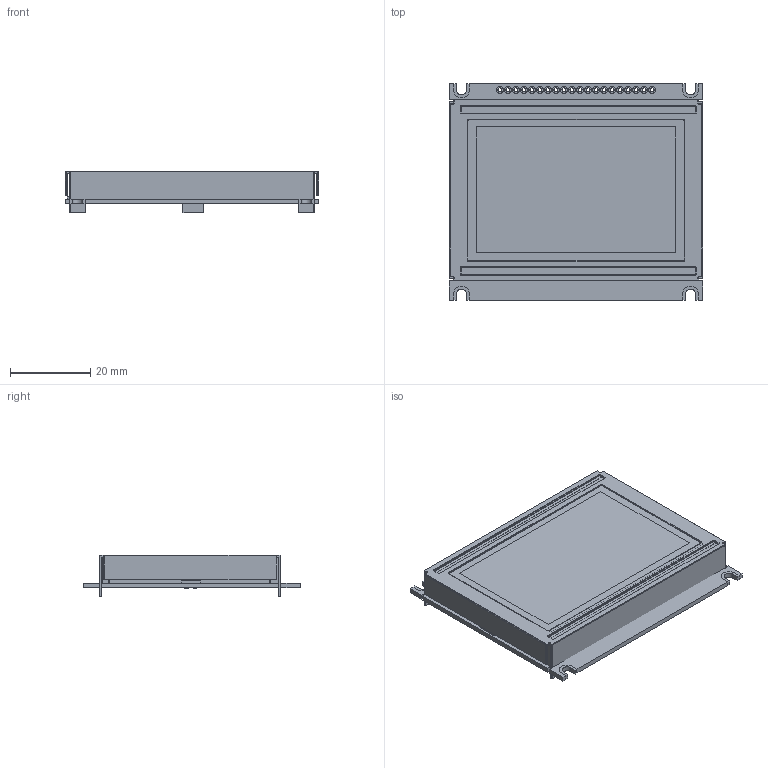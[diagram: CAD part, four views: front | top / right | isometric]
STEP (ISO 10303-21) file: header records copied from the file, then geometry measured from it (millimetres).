
FILE_DESCRIPTION(('STEP AP214'),'1');
FILE_NAME('tmp0.STEP','2018-12-10T15:23:22',(' '),(' '),'Spatial InterOp 3D',' ',' ');
FILE_SCHEMA(('automotive_design'));
Length unit declared in the file: millimetre
Products named in the file (34): 1; 2; 3; 4; 5; 6; 7; 8; 9; 10; 11; 12; 13; 14; 15; 16; 17; 18; 19; 20; 21; 22; 23; 24; 25; 26; 27; 28; 29; 30; 31; 32; 33; 34
Bounding box: 63.2 x 54 x 10.47 mm (x, y, z)
Volume: 26903.3 mm3; surface area: 32079 mm2
Topology: 34 solids, 34 shells, 460 faces, 1120 edges, 718 vertices
Faces by surface type: cylinder 234, plane 204, sphere 14, torus 8
Entity records: 18106 total; most frequent: DIRECTION 2570, CARTESIAN_POINT 2318, ORIENTED_EDGE 2212, EDGE_CURVE 1106, AXIS2_PLACEMENT_3D 970, VERTEX_POINT 718, LINE 630, VECTOR 630
